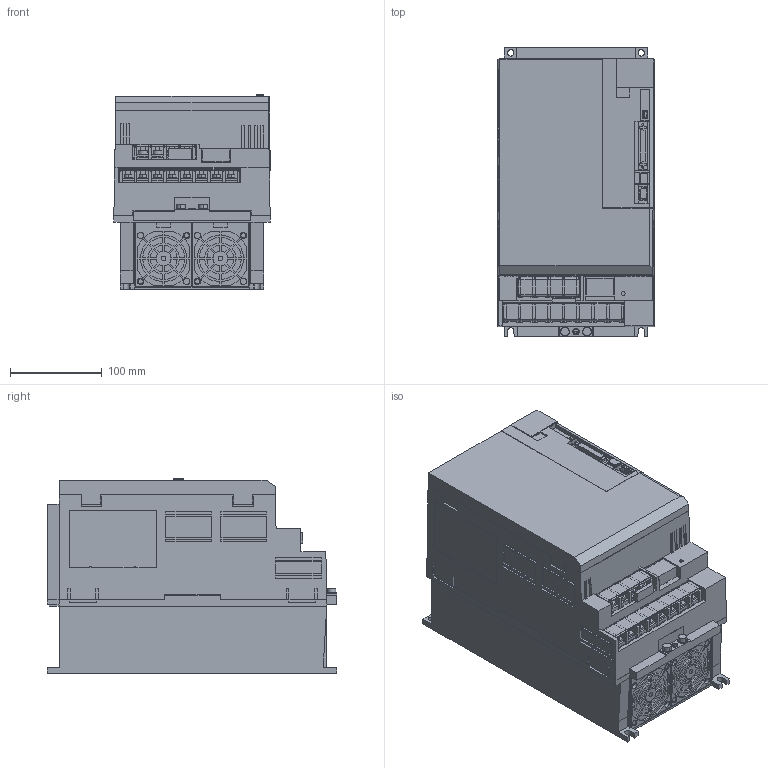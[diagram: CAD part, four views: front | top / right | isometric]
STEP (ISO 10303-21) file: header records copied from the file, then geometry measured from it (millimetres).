
FILE_DESCRIPTION((''),'2;1');
FILE_NAME('SGDXS-550A00A_ASM','2022-03-15T',('liubing_shen'),('Yaskawa Electric (Shenyang) Co.,Ltd'),'PRO/ENGINEER BY PARAMETRIC TECHNOLOGY CORPORATION, 2017170','PRO/ENGINEER BY PARAMETRIC TECHNOLOGY CORPORATION, 2017170','');
FILE_SCHEMA(('AUTOMOTIVE_DESIGN { 1 0 10303 214 1 1 1 1 }'));
Products named in the file (8): SGDXS-550A00A_BASE; SGDXS-550A00A_COVER1; SGDXS-550A00A_COVER2; SGDXS-550A00A_COVER3; SGDXS-550A00A_COVER4; SGDXS-550A00A_COVER5; SGDXS-550A00A_CONNECTOR; SGDXS-550A00A_ASM
Assembly tree (7 placements, depth 2):
  SGDXS-550A00A_ASM
    SGDXS-550A00A_BASE
    SGDXS-550A00A_COVER1
    SGDXS-550A00A_COVER2
    SGDXS-550A00A_COVER3
    SGDXS-550A00A_COVER4
    SGDXS-550A00A_COVER5
    SGDXS-550A00A_CONNECTOR
Bounding box: 170 x 315 x 211.55 mm (x, y, z)
Volume: 7278041.5 mm3; surface area: 890837.9 mm2
Topology: 7 solids, 8 shells, 2889 faces, 7883 edges, 5202 vertices
Faces by surface type: plane 2363, cylinder 508, torus 8, cone 8, bspline 2
Entity records: 113494 total; most frequent: CARTESIAN_POINT 16294, ORIENTED_EDGE 15766, DIRECTION 14742, EDGE_CURVE 7883, VECTOR 6800, LINE 6800, VERTEX_POINT 5202, AXIS2_PLACEMENT_3D 3971
